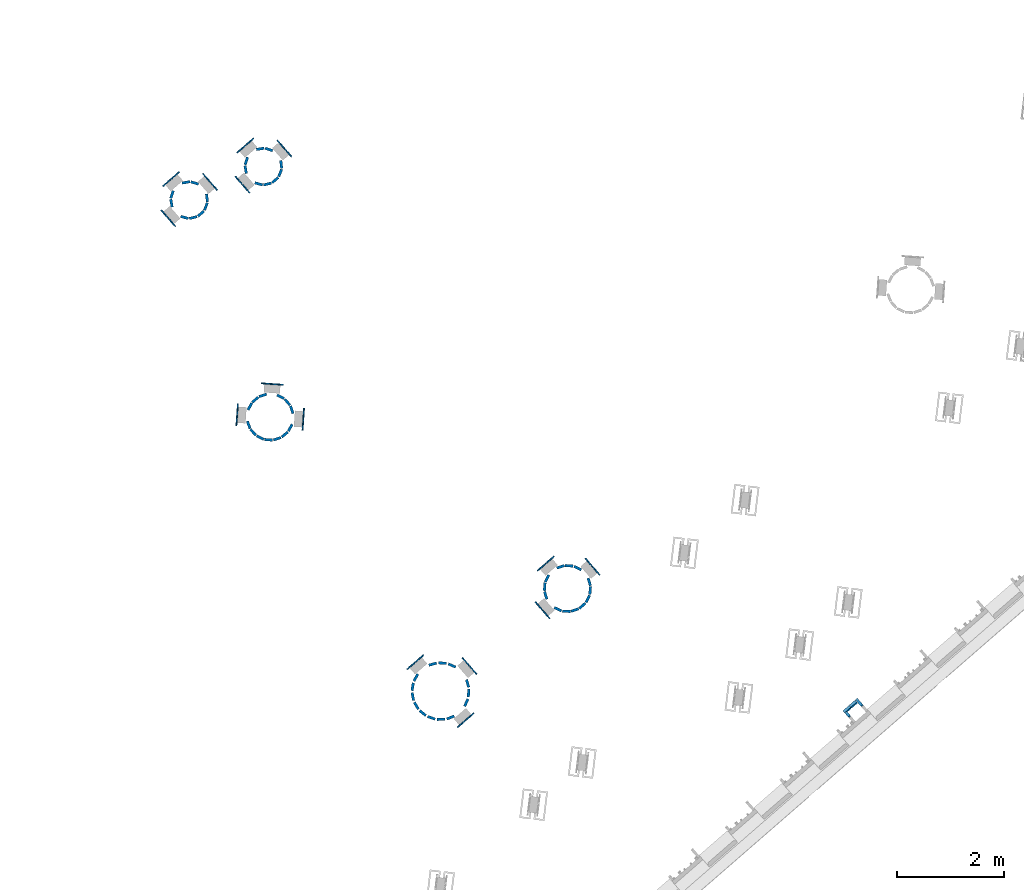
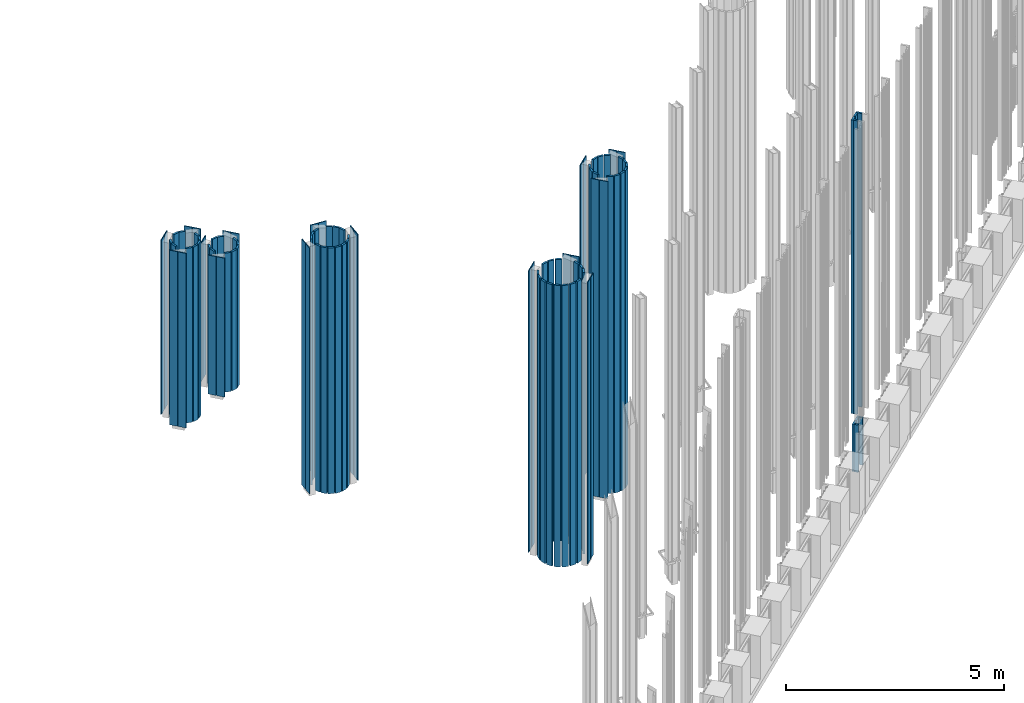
# One storey, part 23 of 390: 97 walls.
"""IFC2X3 building model written with IfcOpenShell, lengths in millimetres."""

from ifc_helpers import new_model, entity, si_unit, converted_unit, derived_unit, money_unit, direction, frame, origin_with_axes, origin_2d_with_axis, place, context, subcontext, project, spatial, rectangle, extrude, material, type_object, element, save


model = new_model("IFC2X3")

# Units and contexts
model_context = context("Model", 3, precision=1e-05, world=origin_with_axes(), true_north=direction((0.0, 1.0)))
body_context = subcontext(model_context, "Body", "Model", "MODEL_VIEW")
ifc_project = project(units=[si_unit("LENGTHUNIT", "METRE", prefix="MILLI"), si_unit("AREAUNIT", "SQUARE_METRE"), si_unit("VOLUMEUNIT", "CUBIC_METRE"), converted_unit("PLANEANGLEUNIT", "DEGREE", entity("IfcPlaneAngleMeasure", 0.0174532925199), si_unit("PLANEANGLEUNIT", "RADIAN"), dimensions=[0, 0, 0, 0, 0, 0, 0]), si_unit("SOLIDANGLEUNIT", "STERADIAN"), money_unit("EUR"), converted_unit("TIMEUNIT", "Year", entity("IfcTimeMeasure", 31556926.0), si_unit("TIMEUNIT", "SECOND"), dimensions=[0, 0, 1, 0, 0, 0, 0]), si_unit("MASSUNIT", "GRAM", prefix="KILO"), si_unit("THERMODYNAMICTEMPERATUREUNIT", "DEGREE_CELSIUS"), si_unit("LUMINOUSINTENSITYUNIT", "LUMEN"), si_unit("ENERGYUNIT", "JOULE", prefix="MEGA"), derived_unit("THERMALCONDUCTANCEUNIT", [(si_unit("POWERUNIT", "WATT"), 1), (si_unit("LENGTHUNIT", "METRE"), -1), (si_unit("THERMODYNAMICTEMPERATUREUNIT", "KELVIN"), -1)]), derived_unit("SPECIFICHEATCAPACITYUNIT", [(si_unit("ENERGYUNIT", "JOULE"), 1), (si_unit("MASSUNIT", "GRAM", prefix="KILO"), -1), (si_unit("THERMODYNAMICTEMPERATUREUNIT", "KELVIN"), -1)]), derived_unit("MASSDENSITYUNIT", [(si_unit("MASSUNIT", "GRAM", prefix="KILO"), 1), (si_unit("VOLUMEUNIT", "CUBIC_METRE"), -1)])], contexts=[model_context])

# Site, building, storey
site_placement = place(None, origin_with_axes())
site = spatial("IfcSite", under=ifc_project, at=site_placement, Name="Site", CompositionType="ELEMENT")
building_placement = place(site_placement, origin_with_axes())
building = spatial("IfcBuilding", under=site, at=building_placement, Name="Building", CompositionType="ELEMENT")
storey_placement = place(building_placement, origin_with_axes())
storey = spatial("IfcBuildingStorey", under=building, at=storey_placement, Name="1 korrus", CompositionType="ELEMENT", Elevation=0.0)

# Walls
ifc_material_1 = material(Name="Site specified")
wall_type = type_object("IfcWallType", Name="Puitfassaadi ribisik", PredefinedType="NOTDEFINED")
for number, where, z_axis, x_axis, name in (
    (1, (148672.439161, 99547.023095, 1621.79317822), (0.0, 0.0, 1.0), (0.754709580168, 0.656059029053, 0.0), "Site specified"),
    (2, (148560.391704, 99515.872376, 1621.79317822), (0.0, 0.0, 1.0), (-0.656059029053, 0.754709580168, 0.0), "Site specified"),
    (3, (148443.411719, 99414.1832265, 1621.79317822), (0.0, 0.0, 1.0), (-0.656059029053, 0.754709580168, 0.0), "Site specified"),
):
    element("IfcWall", number, at=place(storey_placement, frame(where, z_axis=z_axis, x_axis=x_axis)), inside=storey, type_object=wall_type, material=ifc_material_1, Name=name, context=body_context, shape_type="SweptSolid", body=[
        extrude(rectangle(XDim=50.0, YDim=150.0, at=origin_2d_with_axis()), origin_with_axes(), (0.0, 0.0, 1.0), 8243.20681668),
    ])
wall_1_placement = place(storey_placement, frame((148454.880665, 99324.7770091, 1621.79317822), z_axis=(0.0, 0.0, 1.0), x_axis=(0.754709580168, 0.656059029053, 0.0)))
element("IfcWall", 4, at=wall_1_placement, inside=storey, type_object=wall_type, material=ifc_material_1, Name="Site specified", context=body_context, shape_type="SweptSolid", body=[
    extrude(rectangle(XDim=50.0, YDim=100.000069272, at=origin_2d_with_axis()), origin_with_axes(), (0.0, 0.0, 1.0), 8243.20681668),
])
ifc_material_2 = material(Name="GENEERILINE - VÄLINE VOODER")
wall_2_placement = place(storey_placement, frame((137153.730029, 109848.900163, 100.0), z_axis=(0.0, 0.0, 1.0), x_axis=(-0.656059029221, 0.754709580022, 0.0)))
element("IfcWall", 5, at=wall_2_placement, inside=storey, type_object=wall_type, material=ifc_material_2, Name="GENEERILINE - VÄLINE VOODER", context=body_context, shape_type="SweptSolid", body=[
    extrude(rectangle(XDim=22.0, YDim=200.0, at=origin_2d_with_axis()), frame((0.0, 0.0, 0.0), z_axis=(0.0, 0.0, -1.0), x_axis=(-1.0, 0.0, 0.0)), (0.0, 0.0, -1.0), 3900.0),
])
wall_3_placement = place(storey_placement, frame((141085.999013, 100228.697729, 100.0), z_axis=(0.0, 0.0, 1.0), x_axis=(0.406736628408, 0.913545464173, 0.0)))
element("IfcWall", 6, at=wall_3_placement, inside=storey, type_object=wall_type, material=ifc_material_2, Name="GENEERILINE - VÄLINE VOODER", context=body_context, shape_type="SweptSolid", body=[
    extrude(rectangle(XDim=50.0, YDim=150.0, at=origin_2d_with_axis()), frame((0.0, 0.0, 0.0), z_axis=(0.0, 0.0, -1.0), x_axis=(-1.0, 0.0, 0.0)), (0.0, 0.0, -1.0), 7900.0),
])
for number, where, z_axis, x_axis in (
    (7, (137791.280768, 109275.528508, 100.0), (0.0, 0.0, 1.0), (0.656059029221, -0.754709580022, 0.0)),
    (8, (137646.859597, 109201.942246, 100.0), (0.0, 0.0, 1.0), (0.224951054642, -0.974370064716, 0.0)),
    (9, (137675.021687, 109846.96015, 100.0), (0.0, 0.0, 1.0), (0.309016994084, 0.95105651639, 0.0)),
    (10, (137513.328854, 109858.266815, 100.0), (0.0, 0.0, 1.0), (-0.173648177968, 0.984807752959, 0.0)),
    (11, (137241.590396, 109470.184078, 100.0), (0.0, 0.0, 1.0), (-0.984807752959, -0.173648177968, 0.0)),
    (12, (137484.796614, 109204.771065, 100.0), (0.0, 0.0, 1.0), (-0.258819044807, -0.965925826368, 0.0)),
):
    element("IfcWall", number, at=place(storey_placement, frame(where, z_axis=z_axis, x_axis=x_axis)), inside=storey, type_object=wall_type, material=ifc_material_2, Name="GENEERILINE - VÄLINE VOODER", context=body_context, shape_type="SweptSolid", body=[
        extrude(rectangle(XDim=50.0, YDim=150.0, at=origin_2d_with_axis()), frame((0.0, 0.0, 0.0), z_axis=(0.0, 0.0, -1.0), x_axis=(-1.0, 0.0, 0.0)), (0.0, 0.0, -1.0), 3900.0),
    ])
wall_4_placement = place(storey_placement, frame((136129.247462, 109233.188234, 100.0), z_axis=(0.0, 0.0, 1.0), x_axis=(-0.173648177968, 0.984807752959, 0.0)))
element("IfcWall", 13, at=wall_4_placement, inside=storey, type_object=wall_type, material=ifc_material_2, Name="GENEERILINE - VÄLINE VOODER", context=body_context, shape_type="SweptSolid", body=[
    extrude(rectangle(XDim=50.0, YDim=150.0, at=origin_2d_with_axis()), frame((0.0, 0.0, 0.0), z_axis=(0.0, 0.0, -1.0), x_axis=(-1.0, 0.0, 0.0)), (0.0, 0.0, -1.0), 4900.0),
])
wall_5_placement = place(storey_placement, frame((143217.424044, 101238.319993, 100.0), z_axis=(0.0, 0.0, 1.0), x_axis=(0.0496808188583, 0.998765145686, 0.0)))
element("IfcWall", 14, at=wall_5_placement, inside=storey, type_object=wall_type, material=ifc_material_2, Name="GENEERILINE - VÄLINE VOODER", context=body_context, shape_type="SweptSolid", body=[
    extrude(rectangle(XDim=50.0, YDim=150.0, at=origin_2d_with_axis()), origin_with_axes(), (0.0, 0.0, 1.0), 8900.0),
])
wall_6_placement = place(storey_placement, frame((140413.286933, 100003.611403, 100.0), z_axis=(0.0, 0.0, 1.0), x_axis=(-0.874619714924, 0.484809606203, 0.0)))
element("IfcWall", 15, at=wall_6_placement, inside=storey, type_object=wall_type, material=ifc_material_2, Name="GENEERILINE - VÄLINE VOODER", context=body_context, shape_type="SweptSolid", body=[
    extrude(rectangle(XDim=50.0, YDim=150.0, at=origin_2d_with_axis()), frame((0.0, 0.0, 0.0), z_axis=(0.0, 0.0, -1.0), x_axis=(-1.0, 0.0, 0.0)), (0.0, 0.0, -1.0), 7900.0),
])
for number, where, z_axis, x_axis in (
    (16, (141421.445061, 99277.6005061, 100.0), (0.0, 0.0, 1.0), (0.656059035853, -0.754709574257, 0.0)),
    (17, (141262.95605, 99139.8281086, 100.0), (0.0, 0.0, 1.0), (0.656059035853, -0.754709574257, 0.0)),
    (18, (141343.948136, 100298.069138, 100.0), (0.0, 0.0, 1.0), (0.754709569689, 0.656059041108, 0.0)),
):
    element("IfcWall", number, at=place(storey_placement, frame(where, z_axis=z_axis, x_axis=x_axis)), inside=storey, type_object=wall_type, material=ifc_material_2, Name="GENEERILINE - VÄLINE VOODER", context=body_context, shape_type="SweptSolid", body=[
        extrude(rectangle(XDim=22.0, YDim=200.0, at=origin_2d_with_axis()), frame((0.0, 0.0, 0.0), z_axis=(0.0, 0.0, -1.0), x_axis=(-1.0, 0.0, 0.0)), (0.0, 0.0, -1.0), 7900.0),
    ])
wall_7_placement = place(storey_placement, frame((143377.972713, 101261.319066, 100.0), z_axis=(0.0, 0.0, 1.0), x_axis=(-0.328080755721, 0.944649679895, 0.0)))
element("IfcWall", 19, at=wall_7_placement, inside=storey, type_object=wall_type, material=ifc_material_2, Name="GENEERILINE - VÄLINE VOODER", context=body_context, shape_type="SweptSolid", body=[
    extrude(rectangle(XDim=50.0, YDim=150.0, at=origin_2d_with_axis()), origin_with_axes(), (0.0, 0.0, 1.0), 8900.0),
])
for number, where, z_axis, x_axis in (
    (20, (140542.069084, 99341.084725, 100.0), (0.0, 0.0, 1.0), (-0.629320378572, -0.777145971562, 0.0)),
    (21, (141060.605465, 99258.9566391, 100.0), (0.0, 0.0, 1.0), (0.358367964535, -0.933580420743, 0.0)),
    (22, (140357.108013, 99648.9116292, 100.0), (0.0, 0.0, 1.0), (-0.981627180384, -0.190809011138, 0.0)),
    (23, (140881.624805, 99224.1663202, 100.0), (0.0, 0.0, 1.0), (0.0174524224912, -0.999847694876, 0.0)),
    (24, (140701.53901, 99252.6891051, 100.0), (0.0, 0.0, 1.0), (-0.325568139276, -0.945518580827, 0.0)),
):
    element("IfcWall", number, at=place(storey_placement, frame(where, z_axis=z_axis, x_axis=x_axis)), inside=storey, type_object=wall_type, material=ifc_material_2, Name="GENEERILINE - VÄLINE VOODER", context=body_context, shape_type="SweptSolid", body=[
        extrude(rectangle(XDim=50.0, YDim=150.0, at=origin_2d_with_axis()), frame((0.0, 0.0, 0.0), z_axis=(0.0, 0.0, -1.0), x_axis=(-1.0, 0.0, 0.0)), (0.0, 0.0, -1.0), 7900.0),
    ])
wall_8_placement = place(storey_placement, frame((143517.363484, 101342.043613, 100.0), z_axis=(0.0, 0.0, 1.0), x_axis=(-0.656059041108, 0.754709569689, 0.0)))
element("IfcWall", 25, at=wall_8_placement, inside=storey, type_object=wall_type, material=ifc_material_2, Name="GENEERILINE - VÄLINE VOODER", context=body_context, shape_type="SweptSolid", body=[
    extrude(rectangle(XDim=50.0, YDim=150.0, at=origin_2d_with_axis()), origin_with_axes(), (0.0, 0.0, 1.0), 8900.0),
])
for number, where, z_axis, x_axis, name in (
    (26, (148687.528519, 99529.6647744, 0.0), (0.0, 0.0, 1.0), (0.754709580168, 0.656059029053, 0.0), "Site specified"),
    (27, (148575.481061, 99498.5140554, 0.0), (0.0, 0.0, 1.0), (-0.656059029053, 0.754709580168, 0.0), "Site specified"),
):
    element("IfcWall", number, at=place(storey_placement, frame(where, z_axis=z_axis, x_axis=x_axis)), inside=storey, type_object=wall_type, material=ifc_material_1, Name=name, context=body_context, shape_type="SweptSolid", body=[
        extrude(rectangle(XDim=50.0, YDim=150.0, at=origin_2d_with_axis()), origin_with_axes(), (0.0, 0.0, 1.0), 1329.9999949),
    ])
wall_9_placement = place(storey_placement, frame((148469.970023, 99307.4186884, 0.0), z_axis=(0.0, 0.0, 1.0), x_axis=(0.754709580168, 0.656059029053, 0.0)))
element("IfcWall", 28, at=wall_9_placement, inside=storey, type_object=wall_type, material=ifc_material_1, Name="Site specified", context=body_context, shape_type="SweptSolid", body=[
    extrude(rectangle(XDim=50.0, YDim=100.000069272, at=origin_2d_with_axis()), origin_with_axes(), (0.0, 0.0, 1.0), 1329.9999949),
])
wall_10_placement = place(storey_placement, frame((148458.501076, 99396.8249059, 0.0), z_axis=(0.0, 0.0, 1.0), x_axis=(-0.656059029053, 0.754709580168, 0.0)))
element("IfcWall", 29, at=wall_10_placement, inside=storey, type_object=wall_type, material=ifc_material_1, Name="Site specified", context=body_context, shape_type="SweptSolid", body=[
    extrude(rectangle(XDim=50.0, YDim=150.0, at=origin_2d_with_axis()), origin_with_axes(), (0.0, 0.0, 1.0), 1329.9999949),
])
for number, where, z_axis, x_axis in (
    (30, (140422.449455, 99478.6913635, 100.0), (0.0, 0.0, 1.0), (-0.857167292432, -0.515038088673, 0.0)),
    (31, (141396.18341, 99712.4642197, 100.0), (0.0, 0.0, 1.0), (0.99756405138, -0.0697564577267, 0.0)),
    (32, (140353.925903, 99831.2144458, 100.0), (0.0, 0.0, 1.0), (-0.987688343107, 0.156434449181, 0.0)),
    (33, (141377.124671, 99893.7959799, 100.0), (0.0, 0.0, 1.0), (0.961261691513, 0.275637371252, 0.0)),
):
    element("IfcWall", number, at=place(storey_placement, frame(where, z_axis=z_axis, x_axis=x_axis)), inside=storey, type_object=wall_type, material=ifc_material_2, Name="GENEERILINE - VÄLINE VOODER", context=body_context, shape_type="SweptSolid", body=[
        extrude(rectangle(XDim=50.0, YDim=150.0, at=origin_2d_with_axis()), frame((0.0, 0.0, 0.0), z_axis=(0.0, 0.0, -1.0), x_axis=(-1.0, 0.0, 0.0)), (0.0, 0.0, -1.0), 7900.0),
    ])
wall_11_placement = place(storey_placement, frame((141481.720534, 100139.580129, 100.0), z_axis=(0.0, 0.0, 1.0), x_axis=(0.754709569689, 0.656059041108, 0.0)))
element("IfcWall", 34, at=wall_11_placement, inside=storey, type_object=wall_type, material=ifc_material_2, Name="GENEERILINE - VÄLINE VOODER", context=body_context, shape_type="SweptSolid", body=[
    extrude(rectangle(XDim=22.0, YDim=200.0, at=origin_2d_with_axis()), frame((0.0, 0.0, 0.0), z_axis=(0.0, 0.0, -1.0), x_axis=(-1.0, 0.0, 0.0)), (0.0, 0.0, -1.0), 7900.0),
])
wall_12_placement = place(storey_placement, frame((143059.950306, 101277.138214, 100.0), z_axis=(0.0, 0.0, 1.0), x_axis=(0.420207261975, 0.907428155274, 0.0)))
element("IfcWall", 35, at=wall_12_placement, inside=storey, type_object=wall_type, material=ifc_material_2, Name="GENEERILINE - VÄLINE VOODER", context=body_context, shape_type="SweptSolid", body=[
    extrude(rectangle(XDim=50.0, YDim=150.0, at=origin_2d_with_axis()), origin_with_axes(), (0.0, 0.0, 1.0), 8900.0),
])
wall_13_placement = place(storey_placement, frame((141352.073652, 99535.5496301, 100.0), z_axis=(0.0, 0.0, 1.0), x_axis=(0.913545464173, -0.406736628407, 0.0)))
element("IfcWall", 36, at=wall_13_placement, inside=storey, type_object=wall_type, material=ifc_material_2, Name="GENEERILINE - VÄLINE VOODER", context=body_context, shape_type="SweptSolid", body=[
    extrude(rectangle(XDim=50.0, YDim=150.0, at=origin_2d_with_axis()), frame((0.0, 0.0, 0.0), z_axis=(0.0, 0.0, -1.0), x_axis=(-1.0, 0.0, 0.0)), (0.0, 0.0, -1.0), 7900.0),
])
for number, where, z_axis, x_axis in (
    (37, (142814.804573, 101695.577052, 100.0), (0.0, 0.0, 1.0), (0.997020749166, -0.0771338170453, 0.0)),
    (38, (142857.939542, 101851.923485, 100.0), (0.0, 0.0, 1.0), (0.895526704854, -0.445007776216, 0.0)),
):
    element("IfcWall", number, at=place(storey_placement, frame(where, z_axis=z_axis, x_axis=x_axis)), inside=storey, type_object=wall_type, material=ifc_material_2, Name="GENEERILINE - VÄLINE VOODER", context=body_context, shape_type="SweptSolid", body=[
        extrude(rectangle(XDim=50.0, YDim=150.0, at=origin_2d_with_axis()), origin_with_axes(), (0.0, 0.0, 1.0), 8900.0),
    ])
wall_14_placement = place(storey_placement, frame((137884.250437, 109408.302954, 100.0), z_axis=(0.0, 0.0, 1.0), x_axis=(0.933580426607, -0.35836794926, 0.0)))
element("IfcWall", 39, at=wall_14_placement, inside=storey, type_object=wall_type, material=ifc_material_2, Name="GENEERILINE - VÄLINE VOODER", context=body_context, shape_type="SweptSolid", body=[
    extrude(rectangle(XDim=50.0, YDim=150.0, at=origin_2d_with_axis()), frame((0.0, 0.0, 0.0), z_axis=(0.0, 0.0, -1.0), x_axis=(-1.0, 0.0, 0.0)), (0.0, 0.0, -1.0), 3900.0),
])
for number, where, z_axis, x_axis in (
    (40, (143271.320264, 102086.528998, 100.0), (0.0, 0.0, 1.0), (-0.0771338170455, -0.997020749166, 0.0)),
    (41, (142833.378931, 101534.456521, 100.0), (0.0, 0.0, 1.0), (0.953316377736, 0.301973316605, 0.0)),
    (42, (143427.666697, 102043.39403, 100.0), (0.0, 0.0, 1.0), (-0.445007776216, -0.895526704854, 0.0)),
    (43, (143617.216168, 101469.849224, 100.0), (0.0, 0.0, 1.0), (-0.891006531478, 0.453990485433, 0.0)),
    (44, (143644.967911, 101787.053161, 100.0), (0.0, 0.0, 1.0), (-0.956304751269, -0.292371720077, 0.0)),
    (45, (143661.921139, 101625.753996, 100.0), (0.0, 0.0, 1.0), (-0.996194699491, 0.0871557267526, 0.0)),
    (46, (143110.199732, 102067.954641, 100.0), (0.0, 0.0, 1.0), (0.301973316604, -0.953316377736, 0.0)),
):
    element("IfcWall", number, at=place(storey_placement, frame(where, z_axis=z_axis, x_axis=x_axis)), inside=storey, type_object=wall_type, material=ifc_material_2, Name="GENEERILINE - VÄLINE VOODER", context=body_context, shape_type="SweptSolid", body=[
        extrude(rectangle(XDim=50.0, YDim=150.0, at=origin_2d_with_axis()), origin_with_axes(), (0.0, 0.0, 1.0), 8900.0),
    ])
for number, where, z_axis, x_axis in (
    (47, (137635.075982, 105481.003904, 100.0), (0.0, 0.0, 1.0), (0.0697564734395, 0.997564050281, 0.0)),
    (48, (138307.974806, 104711.189621, 100.0), (0.0, 0.0, 1.0), (0.997564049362, -0.0697564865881, 0.0)),
):
    element("IfcWall", number, at=place(storey_placement, frame(where, z_axis=z_axis, x_axis=x_axis)), inside=storey, type_object=wall_type, material=ifc_material_2, Name="GENEERILINE - VÄLINE VOODER", context=body_context, shape_type="SweptSolid", body=[
        extrude(rectangle(XDim=22.0, YDim=200.0, at=origin_2d_with_axis()), frame((0.0, 0.0, 0.0), z_axis=(0.0, 0.0, -1.0), x_axis=(-1.0, 0.0, 0.0)), (0.0, 0.0, -1.0), 6900.0),
    ])
for number, where, z_axis, x_axis in (
    (49, (137667.203718, 104435.215298, 100.0), (0.0, 0.0, 1.0), (0.0697564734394, 0.997564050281, 0.0)),
    (50, (137420.405452, 105181.985364, 100.0), (0.0, 0.0, 1.0), (0.650458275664, -0.759541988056, 0.0)),
):
    element("IfcWall", number, at=place(storey_placement, frame(where, z_axis=z_axis, x_axis=x_axis)), inside=storey, type_object=wall_type, material=ifc_material_2, Name="GENEERILINE - VÄLINE VOODER", context=body_context, shape_type="SweptSolid", body=[
        extrude(rectangle(XDim=50.0, YDim=150.0, at=origin_2d_with_axis()), origin_with_axes(), (0.0, 0.0, 1.0), 6900.0),
    ])
wall_15_placement = place(storey_placement, frame((137075.067028, 104797.402932, 100.0), z_axis=(0.0, 0.0, 1.0), x_axis=(-0.997564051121, 0.0697564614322, 0.0)))
element("IfcWall", 51, at=wall_15_placement, inside=storey, type_object=wall_type, material=ifc_material_2, Name="GENEERILINE - VÄLINE VOODER", context=body_context, shape_type="SweptSolid", body=[
    extrude(rectangle(XDim=22.0, YDim=200.0, at=origin_2d_with_axis()), frame((0.0, 0.0, 0.0), z_axis=(0.0, 0.0, -1.0), x_axis=(-1.0, 0.0, 0.0)), (0.0, 0.0, -1.0), 6900.0),
])
for number, where, z_axis, x_axis in (
    (52, (137319.610084, 105054.921891, 100.0), (0.0, 0.0, 1.0), (0.887623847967, -0.460569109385, 0.0)),
    (53, (138019.655564, 105135.624786, 100.0), (0.0, 0.0, 1.0), (-0.759541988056, -0.650458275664, 0.0)),
    (54, (137561.460105, 105262.037956, 100.0), (0.0, 0.0, 1.0), (0.318564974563, -0.947901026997, 0.0)),
    (55, (137892.592091, 105236.420154, 100.0), (0.0, 0.0, 1.0), (-0.460569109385, -0.887623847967, 0.0)),
    (56, (138099.708156, 104994.570133, 100.0), (0.0, 0.0, 1.0), (-0.947901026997, -0.318564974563, 0.0)),
):
    element("IfcWall", number, at=place(storey_placement, frame(where, z_axis=z_axis, x_axis=x_axis)), inside=storey, type_object=wall_type, material=ifc_material_2, Name="GENEERILINE - VÄLINE VOODER", context=body_context, shape_type="SweptSolid", body=[
        extrude(rectangle(XDim=50.0, YDim=150.0, at=origin_2d_with_axis()), origin_with_axes(), (0.0, 0.0, 1.0), 6900.0),
    ])
wall_16_placement = place(storey_placement, frame((138322.623668, 104920.678071, 100.0), z_axis=(0.0, 0.0, 1.0), x_axis=(0.997564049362, -0.0697564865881, 0.0)))
element("IfcWall", 57, at=wall_16_placement, inside=storey, type_object=wall_type, material=ifc_material_2, Name="GENEERILINE - VÄLINE VOODER", context=body_context, shape_type="SweptSolid", body=[
    extrude(rectangle(XDim=22.0, YDim=200.0, at=origin_2d_with_axis()), frame((0.0, 0.0, 0.0), z_axis=(0.0, 0.0, -1.0), x_axis=(-1.0, 0.0, 0.0)), (0.0, 0.0, -1.0), 6900.0),
])
wall_17_placement = place(storey_placement, frame((136407.199376, 108650.449927, 100.0), z_axis=(0.0, 0.0, 1.0), x_axis=(0.656059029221, -0.754709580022, 0.0)))
element("IfcWall", 58, at=wall_17_placement, inside=storey, type_object=wall_type, material=ifc_material_2, Name="GENEERILINE - VÄLINE VOODER", context=body_context, shape_type="SweptSolid", body=[
    extrude(rectangle(XDim=50.0, YDim=150.0, at=origin_2d_with_axis()), frame((0.0, 0.0, 0.0), z_axis=(0.0, 0.0, -1.0), x_axis=(-1.0, 0.0, 0.0)), (0.0, 0.0, -1.0), 4900.0),
])
for number, where, z_axis, x_axis in (
    (59, (135866.875658, 108485.506671, 100.0), (0.0, 0.0, 1.0), (-0.754709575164, -0.65605903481, 0.0)),
    (60, (135928.137648, 109361.593978, 100.0), (0.0, 0.0, 1.0), (-0.656059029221, 0.754709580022, 0.0)),
):
    element("IfcWall", number, at=place(storey_placement, frame(where, z_axis=z_axis, x_axis=x_axis)), inside=storey, type_object=wall_type, material=ifc_material_2, Name="GENEERILINE - VÄLINE VOODER", context=body_context, shape_type="SweptSolid", body=[
        extrude(rectangle(XDim=22.0, YDim=200.0, at=origin_2d_with_axis()), frame((0.0, 0.0, 0.0), z_axis=(0.0, 0.0, -1.0), x_axis=(-1.0, 0.0, 0.0)), (0.0, 0.0, -1.0), 4900.0),
    ])
wall_18_placement = place(storey_placement, frame((136500.169044, 108783.224373, 100.0), z_axis=(0.0, 0.0, 1.0), x_axis=(0.933580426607, -0.35836794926, 0.0)))
element("IfcWall", 61, at=wall_18_placement, inside=storey, type_object=wall_type, material=ifc_material_2, Name="GENEERILINE - VÄLINE VOODER", context=body_context, shape_type="SweptSolid", body=[
    extrude(rectangle(XDim=50.0, YDim=150.0, at=origin_2d_with_axis()), frame((0.0, 0.0, 0.0), z_axis=(0.0, 0.0, -1.0), x_axis=(-1.0, 0.0, 0.0)), (0.0, 0.0, -1.0), 4900.0),
])
wall_19_placement = place(storey_placement, frame((135769.648637, 109223.821582, 100.0), z_axis=(0.0, 0.0, 1.0), x_axis=(-0.656059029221, 0.754709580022, 0.0)))
element("IfcWall", 62, at=wall_19_placement, inside=storey, type_object=wall_type, material=ifc_material_2, Name="GENEERILINE - VÄLINE VOODER", context=body_context, shape_type="SweptSolid", body=[
    extrude(rectangle(XDim=22.0, YDim=200.0, at=origin_2d_with_axis()), frame((0.0, 0.0, 0.0), z_axis=(0.0, 0.0, -1.0), x_axis=(-1.0, 0.0, 0.0)), (0.0, 0.0, -1.0), 4900.0),
])
wall_20_placement = place(storey_placement, frame((136519.922562, 108944.103867, 100.0), z_axis=(0.0, 0.0, 1.0), x_axis=(0.992546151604, 0.121869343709, 0.0)))
element("IfcWall", 63, at=wall_20_placement, inside=storey, type_object=wall_type, material=ifc_material_2, Name="GENEERILINE - VÄLINE VOODER", context=body_context, shape_type="SweptSolid", body=[
    extrude(rectangle(XDim=50.0, YDim=150.0, at=origin_2d_with_axis()), frame((0.0, 0.0, 0.0), z_axis=(0.0, 0.0, -1.0), x_axis=(-1.0, 0.0, 0.0)), (0.0, 0.0, -1.0), 4900.0),
])
for number, where, z_axis, x_axis in (
    (64, (136507.963548, 109321.048601, 100.0), (0.0, 0.0, 1.0), (0.754709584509, 0.65605902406, 0.0)),
    (65, (136645.735943, 109162.559588, 100.0), (0.0, 0.0, 1.0), (0.754709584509, 0.65605902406, 0.0)),
):
    element("IfcWall", number, at=place(storey_placement, frame(where, z_axis=z_axis, x_axis=x_axis)), inside=storey, type_object=wall_type, material=ifc_material_2, Name="GENEERILINE - VÄLINE VOODER", context=body_context, shape_type="SweptSolid", body=[
        extrude(rectangle(XDim=22.0, YDim=200.0, at=origin_2d_with_axis()), frame((0.0, 0.0, 0.0), z_axis=(0.0, 0.0, -1.0), x_axis=(-1.0, 0.0, 0.0)), (0.0, 0.0, -1.0), 4900.0),
    ])
for number, where, z_axis, x_axis in (
    (66, (136290.940295, 109221.881569, 100.0), (0.0, 0.0, 1.0), (0.309016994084, 0.95105651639, 0.0)),
    (67, (136262.778205, 108576.863665, 100.0), (0.0, 0.0, 1.0), (0.224951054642, -0.974370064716, 0.0)),
):
    element("IfcWall", number, at=place(storey_placement, frame(where, z_axis=z_axis, x_axis=x_axis)), inside=storey, type_object=wall_type, material=ifc_material_2, Name="GENEERILINE - VÄLINE VOODER", context=body_context, shape_type="SweptSolid", body=[
        extrude(rectangle(XDim=50.0, YDim=150.0, at=origin_2d_with_axis()), frame((0.0, 0.0, 0.0), z_axis=(0.0, 0.0, -1.0), x_axis=(-1.0, 0.0, 0.0)), (0.0, 0.0, -1.0), 4900.0),
    ])
for number, where, z_axis, x_axis in (
    (68, (137904.003954, 109569.182447, 100.0), (0.0, 0.0, 1.0), (0.992546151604, 0.121869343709, 0.0)),
    (69, (137791.280768, 109275.528508, 100.0), (0.0, 0.0, 1.0), (0.656059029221, -0.754709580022, 0.0)),
):
    element("IfcWall", number, at=place(storey_placement, frame(where, z_axis=z_axis, x_axis=x_axis)), inside=storey, type_object=wall_type, material=ifc_material_2, Name="GENEERILINE - VÄLINE VOODER", context=body_context, shape_type="SweptSolid", body=[
        extrude(rectangle(XDim=50.0, YDim=150.0, at=origin_2d_with_axis()), frame((0.0, 0.0, 0.0), z_axis=(0.0, 0.0, -1.0), x_axis=(-1.0, 0.0, 0.0)), (0.0, 0.0, -1.0), 3900.0),
    ])
wall_21_placement = place(storey_placement, frame((136100.715222, 108579.692485, 100.0), z_axis=(0.0, 0.0, 1.0), x_axis=(-0.258819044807, -0.965925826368, 0.0)))
element("IfcWall", 70, at=wall_21_placement, inside=storey, type_object=wall_type, material=ifc_material_2, Name="GENEERILINE - VÄLINE VOODER", context=body_context, shape_type="SweptSolid", body=[
    extrude(rectangle(XDim=50.0, YDim=150.0, at=origin_2d_with_axis()), frame((0.0, 0.0, 0.0), z_axis=(0.0, 0.0, -1.0), x_axis=(-1.0, 0.0, 0.0)), (0.0, 0.0, -1.0), 4900.0),
])
wall_22_placement = place(storey_placement, frame((137252.897061, 109631.87691, 100.0), z_axis=(0.0, 0.0, 1.0), x_axis=(-0.95105651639, 0.309016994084, 0.0)))
element("IfcWall", 71, at=wall_22_placement, inside=storey, type_object=wall_type, material=ifc_material_2, Name="GENEERILINE - VÄLINE VOODER", context=body_context, shape_type="SweptSolid", body=[
    extrude(rectangle(XDim=50.0, YDim=150.0, at=origin_2d_with_axis()), frame((0.0, 0.0, 0.0), z_axis=(0.0, 0.0, -1.0), x_axis=(-1.0, 0.0, 0.0)), (0.0, 0.0, -1.0), 3900.0),
])
wall_23_placement = place(storey_placement, frame((137892.04494, 109946.127182, 100.0), z_axis=(0.0, 0.0, 1.0), x_axis=(0.754709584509, 0.65605902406, 0.0)))
element("IfcWall", 72, at=wall_23_placement, inside=storey, type_object=wall_type, material=ifc_material_2, Name="GENEERILINE - VÄLINE VOODER", context=body_context, shape_type="SweptSolid", body=[
    extrude(rectangle(XDim=22.0, YDim=200.0, at=origin_2d_with_axis()), frame((0.0, 0.0, 0.0), z_axis=(0.0, 0.0, -1.0), x_axis=(-1.0, 0.0, 0.0)), (0.0, 0.0, -1.0), 3900.0),
])
wall_24_placement = place(storey_placement, frame((135729.10326, 108643.995682, 100.0), z_axis=(0.0, 0.0, 1.0), x_axis=(-0.754709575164, -0.65605903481, 0.0)))
element("IfcWall", 73, at=wall_24_placement, inside=storey, type_object=wall_type, material=ifc_material_2, Name="GENEERILINE - VÄLINE VOODER", context=body_context, shape_type="SweptSolid", body=[
    extrude(rectangle(XDim=22.0, YDim=200.0, at=origin_2d_with_axis()), frame((0.0, 0.0, 0.0), z_axis=(0.0, 0.0, -1.0), x_axis=(-1.0, 0.0, 0.0)), (0.0, 0.0, -1.0), 4900.0),
])
for number, where, z_axis, x_axis in (
    (74, (137828.182442, 104454.981, 100.0), (0.0, 0.0, 1.0), (-0.309016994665, 0.951056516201, 0.0)),
    (75, (137511.558685, 104476.698585, 100.0), (0.0, 0.0, 1.0), (0.435980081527, 0.89995631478, 0.0)),
    (76, (137970.034954, 104533.611131, 100.0), (0.0, 0.0, 1.0), (-0.642787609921, 0.766044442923, 0.0)),
    (77, (137381.770833, 104573.96084, 100.0), (0.0, 0.0, 1.0), (0.741363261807, 0.671103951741, 0.0)),
):
    element("IfcWall", number, at=place(storey_placement, frame(where, z_axis=z_axis, x_axis=x_axis)), inside=storey, type_object=wall_type, material=ifc_material_2, Name="GENEERILINE - VÄLINE VOODER", context=body_context, shape_type="SweptSolid", body=[
        extrude(rectangle(XDim=50.0, YDim=150.0, at=origin_2d_with_axis()), origin_with_axes(), (0.0, 0.0, 1.0), 6900.0),
    ])
wall_25_placement = place(storey_placement, frame((137844.564432, 105466.355044, 100.0), z_axis=(0.0, 0.0, 1.0), x_axis=(0.0697564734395, 0.997564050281, 0.0)))
element("IfcWall", 78, at=wall_25_placement, inside=storey, type_object=wall_type, material=ifc_material_2, Name="GENEERILINE - VÄLINE VOODER", context=body_context, shape_type="SweptSolid", body=[
    extrude(rectangle(XDim=22.0, YDim=200.0, at=origin_2d_with_axis()), frame((0.0, 0.0, 0.0), z_axis=(0.0, 0.0, -1.0), x_axis=(-1.0, 0.0, 0.0)), (0.0, 0.0, -1.0), 6900.0),
])
wall_26_placement = place(storey_placement, frame((135857.509004, 108845.105497, 100.0), z_axis=(0.0, 0.0, 1.0), x_axis=(-0.984807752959, -0.173648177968, 0.0)))
element("IfcWall", 79, at=wall_26_placement, inside=storey, type_object=wall_type, material=ifc_material_2, Name="GENEERILINE - VÄLINE VOODER", context=body_context, shape_type="SweptSolid", body=[
    extrude(rectangle(XDim=50.0, YDim=150.0, at=origin_2d_with_axis()), frame((0.0, 0.0, 0.0), z_axis=(0.0, 0.0, -1.0), x_axis=(-1.0, 0.0, 0.0)), (0.0, 0.0, -1.0), 4900.0),
])
wall_27_placement = place(storey_placement, frame((137297.868714, 104712.760216, 100.0), z_axis=(0.0, 0.0, 1.0), x_axis=(0.938780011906, 0.344517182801, 0.0)))
element("IfcWall", 80, at=wall_27_placement, inside=storey, type_object=wall_type, material=ifc_material_2, Name="GENEERILINE - VÄLINE VOODER", context=body_context, shape_type="SweptSolid", body=[
    extrude(rectangle(XDim=50.0, YDim=150.0, at=origin_2d_with_axis()), origin_with_axes(), (0.0, 0.0, 1.0), 6900.0),
])
wall_28_placement = place(storey_placement, frame((137089.715885, 105006.891383, 100.0), z_axis=(0.0, 0.0, 1.0), x_axis=(-0.997564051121, 0.0697564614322, 0.0)))
element("IfcWall", 81, at=wall_28_placement, inside=storey, type_object=wall_type, material=ifc_material_2, Name="GENEERILINE - VÄLINE VOODER", context=body_context, shape_type="SweptSolid", body=[
    extrude(rectangle(XDim=22.0, YDim=200.0, at=origin_2d_with_axis()), frame((0.0, 0.0, 0.0), z_axis=(0.0, 0.0, -1.0), x_axis=(-1.0, 0.0, 0.0)), (0.0, 0.0, -1.0), 6900.0),
])
wall_29_placement = place(storey_placement, frame((140481.968514, 100358.344612, 100.0), z_axis=(0.0, 0.0, 1.0), x_axis=(-0.656059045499, 0.754709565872, 0.0)))
element("IfcWall", 82, at=wall_29_placement, inside=storey, type_object=wall_type, material=ifc_material_2, Name="GENEERILINE - VÄLINE VOODER", context=body_context, shape_type="SweptSolid", body=[
    extrude(rectangle(XDim=22.0, YDim=200.0, at=origin_2d_with_axis()), frame((0.0, 0.0, 0.0), z_axis=(0.0, 0.0, -1.0), x_axis=(-1.0, 0.0, 0.0)), (0.0, 0.0, -1.0), 7900.0),
])
for number, where, z_axis, x_axis in (
    (83, (137250.95705, 109110.585252, 100.0), (0.0, 0.0, 1.0), (-0.754709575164, -0.65605903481, 0.0)),
    (84, (137312.21904, 109986.672559, 100.0), (0.0, 0.0, 1.0), (-0.656059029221, 0.754709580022, 0.0)),
):
    element("IfcWall", number, at=place(storey_placement, frame(where, z_axis=z_axis, x_axis=x_axis)), inside=storey, type_object=wall_type, material=ifc_material_2, Name="GENEERILINE - VÄLINE VOODER", context=body_context, shape_type="SweptSolid", body=[
        extrude(rectangle(XDim=22.0, YDim=200.0, at=origin_2d_with_axis()), frame((0.0, 0.0, 0.0), z_axis=(0.0, 0.0, -1.0), x_axis=(-1.0, 0.0, 0.0)), (0.0, 0.0, -1.0), 3900.0),
    ])
wall_30_placement = place(storey_placement, frame((138072.102946, 104659.654605, 100.0), z_axis=(0.0, 0.0, 1.0), x_axis=(-0.882947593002, 0.469471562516, 0.0)))
element("IfcWall", 85, at=wall_30_placement, inside=storey, type_object=wall_type, material=ifc_material_2, Name="GENEERILINE - VÄLINE VOODER", context=body_context, shape_type="SweptSolid", body=[
    extrude(rectangle(XDim=50.0, YDim=150.0, at=origin_2d_with_axis()), origin_with_axes(), (0.0, 0.0, 1.0), 6900.0),
])
wall_31_placement = place(storey_placement, frame((137113.184653, 109269.074263, 100.0), z_axis=(0.0, 0.0, 1.0), x_axis=(-0.754709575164, -0.65605903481, 0.0)))
element("IfcWall", 86, at=wall_31_placement, inside=storey, type_object=wall_type, material=ifc_material_2, Name="GENEERILINE - VÄLINE VOODER", context=body_context, shape_type="SweptSolid", body=[
    extrude(rectangle(XDim=22.0, YDim=200.0, at=origin_2d_with_axis()), frame((0.0, 0.0, 0.0), z_axis=(0.0, 0.0, -1.0), x_axis=(-1.0, 0.0, 0.0)), (0.0, 0.0, -1.0), 3900.0),
])
for number, where, z_axis, x_axis in (
    (87, (142755.161518, 102058.810076, 100.0), (0.0, 0.0, 1.0), (-0.656059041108, 0.754709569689, 0.0)),
    (88, (143775.31374, 101990.280514, 100.0), (0.0, 0.0, 1.0), (0.754709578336, 0.656059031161, 0.0)),
    (89, (142913.650527, 102196.582474, 100.0), (0.0, 0.0, 1.0), (-0.656059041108, 0.754709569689, 0.0)),
    (90, (143637.541344, 102148.769525, 100.0), (0.0, 0.0, 1.0), (0.754709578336, 0.656059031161, 0.0)),
    (91, (142842.554286, 101179.445066, 100.0), (0.0, 0.0, 1.0), (-0.754709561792, -0.656059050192, 0.0)),
    (92, (142704.781885, 101337.934074, 100.0), (0.0, 0.0, 1.0), (-0.754709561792, -0.656059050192, 0.0)),
):
    element("IfcWall", number, at=place(storey_placement, frame(where, z_axis=z_axis, x_axis=x_axis)), inside=storey, type_object=wall_type, material=ifc_material_2, Name="GENEERILINE - VÄLINE VOODER", context=body_context, shape_type="SweptSolid", body=[
        extrude(rectangle(XDim=22.0, YDim=200.0, at=origin_2d_with_axis()), frame((0.0, 0.0, 0.0), z_axis=(0.0, 0.0, -1.0), x_axis=(-1.0, 0.0, 0.0)), (0.0, 0.0, -1.0), 8900.0),
    ])
wall_32_placement = place(storey_placement, frame((140323.479505, 100220.572212, 100.0), z_axis=(0.0, 0.0, 1.0), x_axis=(-0.656059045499, 0.754709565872, 0.0)))
element("IfcWall", 93, at=wall_32_placement, inside=storey, type_object=wall_type, material=ifc_material_2, Name="GENEERILINE - VÄLINE VOODER", context=body_context, shape_type="SweptSolid", body=[
    extrude(rectangle(XDim=22.0, YDim=200.0, at=origin_2d_with_axis()), frame((0.0, 0.0, 0.0), z_axis=(0.0, 0.0, -1.0), x_axis=(-1.0, 0.0, 0.0)), (0.0, 0.0, -1.0), 7900.0),
])
wall_33_placement = place(storey_placement, frame((138029.817335, 109787.638169, 100.0), z_axis=(0.0, 0.0, 1.0), x_axis=(0.754709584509, 0.65605902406, 0.0)))
element("IfcWall", 94, at=wall_33_placement, inside=storey, type_object=wall_type, material=ifc_material_2, Name="GENEERILINE - VÄLINE VOODER", context=body_context, shape_type="SweptSolid", body=[
    extrude(rectangle(XDim=22.0, YDim=200.0, at=origin_2d_with_axis()), frame((0.0, 0.0, 0.0), z_axis=(0.0, 0.0, -1.0), x_axis=(-1.0, 0.0, 0.0)), (0.0, 0.0, -1.0), 3900.0),
])
wall_34_placement = place(storey_placement, frame((135868.815669, 109006.798329, 100.0), z_axis=(0.0, 0.0, 1.0), x_axis=(-0.95105651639, 0.309016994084, 0.0)))
element("IfcWall", 95, at=wall_34_placement, inside=storey, type_object=wall_type, material=ifc_material_2, Name="GENEERILINE - VÄLINE VOODER", context=body_context, shape_type="SweptSolid", body=[
    extrude(rectangle(XDim=50.0, YDim=150.0, at=origin_2d_with_axis()), frame((0.0, 0.0, 0.0), z_axis=(0.0, 0.0, -1.0), x_axis=(-1.0, 0.0, 0.0)), (0.0, 0.0, -1.0), 4900.0),
])
for number, where, z_axis, x_axis in (
    (96, (140727.752663, 100253.748748, 100.0), (0.0, 0.0, 1.0), (-0.275637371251, 0.961261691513, 0.0)),
    (97, (140909.084423, 100272.807487, 100.0), (0.0, 0.0, 1.0), (0.0697564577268, 0.99756405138, 0.0)),
):
    element("IfcWall", number, at=place(storey_placement, frame(where, z_axis=z_axis, x_axis=x_axis)), inside=storey, type_object=wall_type, material=ifc_material_2, Name="GENEERILINE - VÄLINE VOODER", context=body_context, shape_type="SweptSolid", body=[
        extrude(rectangle(XDim=50.0, YDim=150.0, at=origin_2d_with_axis()), frame((0.0, 0.0, 0.0), z_axis=(0.0, 0.0, -1.0), x_axis=(-1.0, 0.0, 0.0)), (0.0, 0.0, -1.0), 7900.0),
    ])

save(model, "model.ifc")
